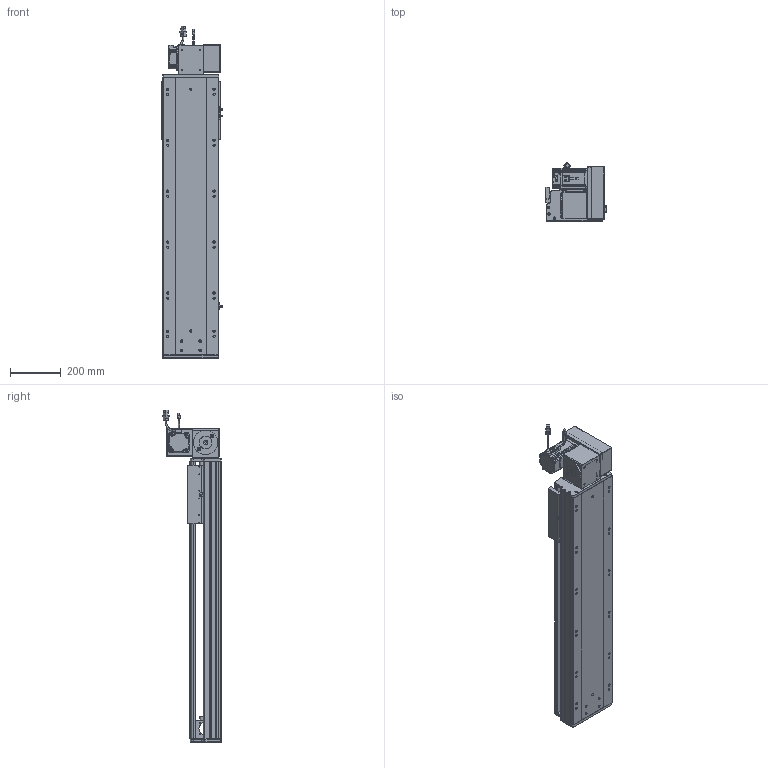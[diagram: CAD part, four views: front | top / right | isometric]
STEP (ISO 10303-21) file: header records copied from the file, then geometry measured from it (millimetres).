
FILE_DESCRIPTION (( 'STEP AP203' ), '1' );
FILE_NAME ('RY220-T-300-UR.SLDASM_750.step', '2022-07-25T08:43:01', ( '' ), ( '' ), 'SwSTEP 2.0', 'SolidWorks 2016', '' );
FILE_SCHEMA (( 'CONFIG_CONTROL_DESIGN' ));
Length unit declared in the file: millimetre
Products named in the file (14): RY220-T-湍謫欶(鍼踢); 覜茼ん672; RY220-T-300-UR.SLDASM_750; RY220翋肮祭謫釱; RY220-俋离672覜茼んえ; RY220-T-300-奻裔啣_750; 110A-T-肮祭謫釱傷裔; 滅袉蝶18-15; RY220翋肮祭謫裔啣; RY220-T菁釱-300_750; 怢湛750W_ECMA-CX0807ES; RY220圉猾敕々湍臏賑輸; RY220-T-蛌殏萇儂假蚾啣(750W); RY220-同步轮副支撑座6304×2
Assembly tree (18 placements, depth 2):
  RY220-T-300-UR.SLDASM_750
    RY220-T菁釱-300_750
    RY220翋肮祭謫釱
    覜茼ん672  x3
    RY220圉猾敕々湍臏賑輸
    RY220-T-300-奻裔啣_750
    RY220-俋离672覜茼んえ
    滅袉蝶18-15  x3
    RY220翋肮祭謫裔啣  x2
    110A-T-肮祭謫釱傷裔
    怢湛750W_ECMA-CX0807ES
    RY220-T-湍謫欶(鍼踢)
    RY220-T-蛌殏萇儂假蚾啣(750W)
    RY220-同步轮副支撑座6304×2
Bounding box: 238.7 x 231.74 x 1303.27 mm (x, y, z)
Volume: 10642345.1 mm3; surface area: 3053111.2 mm2
Topology: 19 solids, 19 shells, 2578 faces, 7107 edges, 4518 vertices
Faces by surface type: cylinder 1194, plane 1069, cone 233, bspline 56, sphere 16, torus 10
Entity records: 85667 total; most frequent: CARTESIAN_POINT 24471, ORIENTED_EDGE 12730, DIRECTION 11984, EDGE_CURVE 6365, AXIS2_PLACEMENT_3D 4220, VERTEX_POINT 4142, VECTOR 3544, LINE 3544
